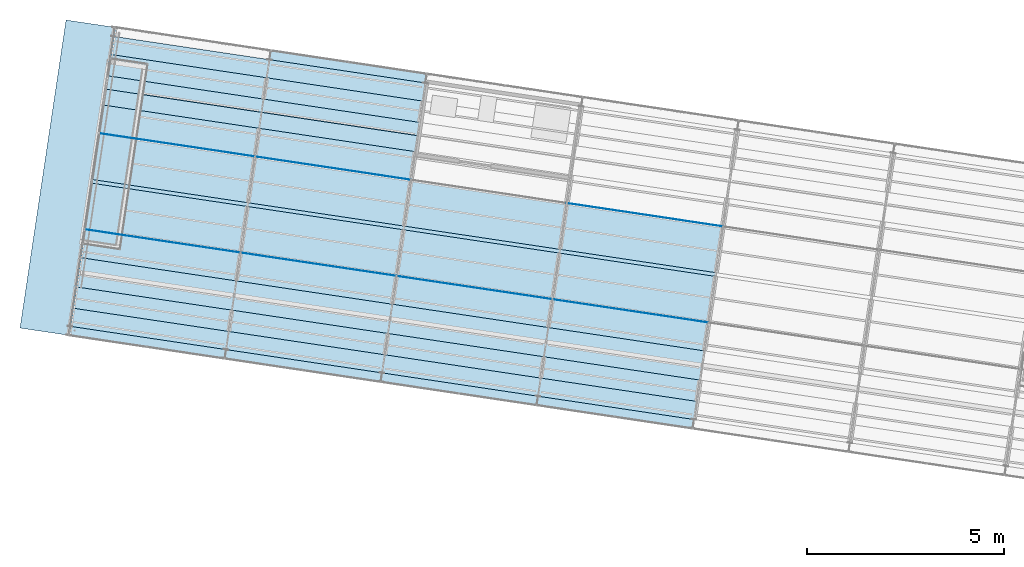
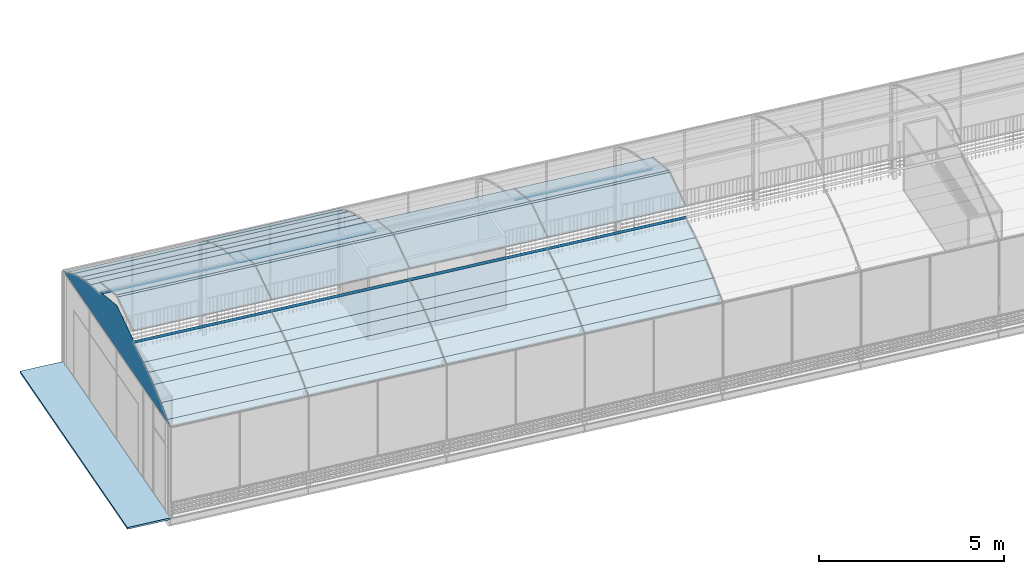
# One storey, part 25 of 34: 55 plates, 1 slab, 1 element without a shape of its own.
"""IFC4 building model written with IfcOpenShell, lengths in metres."""

from ifc_helpers import new_model, si_unit, direction, frame, origin_with_axes, place, context, subcontext, project, spatial, polyline, outline, extrude, material, element, aggregate, save


model = new_model("IFC4")

# Units and contexts
model_context = context("Model", 3, precision=1e-05, world=origin_with_axes(), true_north=direction((0.0, 1.0)))
body_context = subcontext(model_context, "Body", "Model", "MODEL_VIEW")
ifc_project = project(units=[si_unit("AREAUNIT", "SQUARE_METRE"), si_unit("VOLUMEUNIT", "CUBIC_METRE"), si_unit("LENGTHUNIT", "METRE")], contexts=[model_context])

# Site, building, storey
site_placement = place(None, origin_with_axes())
site = spatial("IfcSite", under=ifc_project, at=site_placement, Name="Lares · Rua das Mercês · artigo 4771")
building_placement = place(site_placement, frame((15.0, 9.7, 14.65), z_axis=(0.0, 0.0, 1.0), x_axis=(0.989015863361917, -0.147809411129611, 0.0)))
building = spatial("IfcBuilding", under=site, at=building_placement, Name="Casa Sobreposta")
storey_placement = place(building_placement, frame((0.0, 0.0, 3.24), z_axis=(0.0, 0.0, 1.0), x_axis=(1.0, 0.0, 0.0)))
storey = spatial("IfcBuildingStorey", under=building, at=storey_placement, Name="01 · Jardim de inverno", Elevation=17.89)

# Roof, plates
ifc_material_1 = material(Name="Vidro / Normalglas", Category="glass")
roof_placement = place(storey_placement, frame((0.0, 0.0, -3.24), z_axis=(0.0, 0.0, 1.0), x_axis=(1.0, 0.0, 0.0)))
roof = element("IfcRoof", 1, at=roof_placement, inside=storey, material=ifc_material_1, Name="Cobertura translúcida da estufa", PredefinedType="BARREL_ROOF")
plate_1_placement = place(roof_placement, frame((0.0, 0.0, 0.0), z_axis=(1.0, 0.0, 0.0), x_axis=(0.0, 1.0, 0.0)))
plate_1 = element("IfcPlate", 2, at=plate_1_placement, material=ifc_material_1, Name="Cobertura 1.1", PredefinedType="SHEET", context=body_context, shape_type="SweptSolid", body=[
    extrude(outline(polyline([(-1.5, 6.23430000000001), (-1.26765509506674, 6.32392631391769), (-1.26765509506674, 6.31592631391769), (-1.5, 6.22630000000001), (-1.5, 6.23430000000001)])), origin_with_axes(), (0.0, 0.0, 1.0), 4.0),
])
plate_2_placement = place(roof_placement, frame((4.0, 0.0, 0.0), z_axis=(1.0, 0.0, 0.0), x_axis=(0.0, 1.0, 0.0)))
plate_2 = element("IfcPlate", 3, at=plate_2_placement, material=ifc_material_1, Name="Cobertura 2.1", PredefinedType="SHEET", context=body_context, shape_type="SweptSolid", body=[
    extrude(outline(polyline([(-1.5, 6.23430000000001), (-1.26765509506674, 6.32392631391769), (-1.26765509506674, 6.31592631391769), (-1.5, 6.22630000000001), (-1.5, 6.23430000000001)])), origin_with_axes(), (0.0, 0.0, 1.0), 4.0),
])
plate_3_placement = place(roof_placement, frame((8.0, 0.0, 0.0), z_axis=(1.0, 0.0, 0.0), x_axis=(0.0, 1.0, 0.0)))
plate_3 = element("IfcPlate", 4, at=plate_3_placement, material=ifc_material_1, Name="Cobertura 3.1", PredefinedType="SHEET", context=body_context, shape_type="SweptSolid", body=[
    extrude(outline(polyline([(-1.5, 6.23430000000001), (-1.26765509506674, 6.32392631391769), (-1.26765509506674, 6.31592631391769), (-1.5, 6.22630000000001), (-1.5, 6.23430000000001)])), origin_with_axes(), (0.0, 0.0, 1.0), 4.0),
])
plate_4_placement = place(roof_placement, frame((12.0, 0.0, 0.0), z_axis=(1.0, 0.0, 0.0), x_axis=(0.0, 1.0, 0.0)))
plate_4 = element("IfcPlate", 5, at=plate_4_placement, material=ifc_material_1, Name="Cobertura 4.1", PredefinedType="SHEET", context=body_context, shape_type="SweptSolid", body=[
    extrude(outline(polyline([(-1.5, 6.23430000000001), (-1.26765509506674, 6.32392631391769), (-1.26765509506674, 6.31592631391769), (-1.5, 6.22630000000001), (-1.5, 6.23430000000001)])), origin_with_axes(), (0.0, 0.0, 1.0), 4.0),
])
plate_5_placement = place(roof_placement, frame((0.0, 0.0, 0.0), z_axis=(1.0, 0.0, 0.0), x_axis=(0.0, 1.0, 0.0)))
plate_5 = element("IfcPlate", 6, at=plate_5_placement, material=ifc_material_1, Name="Cobertura 1.2", PredefinedType="SHEET", context=body_context, shape_type="SweptSolid", body=[
    extrude(outline(polyline([(-1.26765509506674, 6.32392631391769), (-0.803062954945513, 6.57613537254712), (-0.803062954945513, 6.56813537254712), (-1.26765509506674, 6.31592631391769), (-1.26765509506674, 6.32392631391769)])), origin_with_axes(), (0.0, 0.0, 1.0), 4.0),
])
plate_6_placement = place(roof_placement, frame((4.0, 0.0, 0.0), z_axis=(1.0, 0.0, 0.0), x_axis=(0.0, 1.0, 0.0)))
plate_6 = element("IfcPlate", 7, at=plate_6_placement, material=ifc_material_1, Name="Cobertura 2.2", PredefinedType="SHEET", context=body_context, shape_type="SweptSolid", body=[
    extrude(outline(polyline([(-1.26765509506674, 6.32392631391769), (-0.803062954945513, 6.57613537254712), (-0.803062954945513, 6.56813537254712), (-1.26765509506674, 6.31592631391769), (-1.26765509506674, 6.32392631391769)])), origin_with_axes(), (0.0, 0.0, 1.0), 4.0),
])
plate_7_placement = place(roof_placement, frame((8.0, 0.0, 0.0), z_axis=(1.0, 0.0, 0.0), x_axis=(0.0, 1.0, 0.0)))
plate_7 = element("IfcPlate", 8, at=plate_7_placement, material=ifc_material_1, Name="Cobertura 3.2", PredefinedType="SHEET", context=body_context, shape_type="SweptSolid", body=[
    extrude(outline(polyline([(-1.26765509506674, 6.32392631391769), (-0.803062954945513, 6.57613537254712), (-0.803062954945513, 6.56813537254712), (-1.26765509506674, 6.31592631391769), (-1.26765509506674, 6.32392631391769)])), origin_with_axes(), (0.0, 0.0, 1.0), 4.0),
])
plate_8_placement = place(roof_placement, frame((12.0, 0.0, 0.0), z_axis=(1.0, 0.0, 0.0), x_axis=(0.0, 1.0, 0.0)))
plate_8 = element("IfcPlate", 9, at=plate_8_placement, material=ifc_material_1, Name="Cobertura 4.2", PredefinedType="SHEET", context=body_context, shape_type="SweptSolid", body=[
    extrude(outline(polyline([(-1.26765509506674, 6.32392631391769), (-0.803062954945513, 6.57613537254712), (-0.803062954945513, 6.56813537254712), (-1.26765509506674, 6.31592631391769), (-1.26765509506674, 6.32392631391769)])), origin_with_axes(), (0.0, 0.0, 1.0), 4.0),
])
plate_9_placement = place(roof_placement, frame((0.0, 0.0, 0.0), z_axis=(1.0, 0.0, 0.0), x_axis=(0.0, 1.0, 0.0)))
plate_9 = element("IfcPlate", 10, at=plate_9_placement, material=ifc_material_1, Name="Cobertura 1.3", PredefinedType="SHEET", context=body_context, shape_type="SweptSolid", body=[
    extrude(outline(polyline([(-0.803062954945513, 6.57613537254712), (-0.256488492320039, 6.81570306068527), (-0.256488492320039, 6.80770306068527), (-0.803062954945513, 6.56813537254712), (-0.803062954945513, 6.57613537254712)])), origin_with_axes(), (0.0, 0.0, 1.0), 4.0),
])
plate_10_placement = place(roof_placement, frame((4.0, 0.0, 0.0), z_axis=(1.0, 0.0, 0.0), x_axis=(0.0, 1.0, 0.0)))
plate_10 = element("IfcPlate", 11, at=plate_10_placement, material=ifc_material_1, Name="Cobertura 2.3", PredefinedType="SHEET", context=body_context, shape_type="SweptSolid", body=[
    extrude(outline(polyline([(-0.803062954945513, 6.57613537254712), (-0.256488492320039, 6.81570306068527), (-0.256488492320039, 6.80770306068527), (-0.803062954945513, 6.56813537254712), (-0.803062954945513, 6.57613537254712)])), origin_with_axes(), (0.0, 0.0, 1.0), 4.0),
])
plate_11_placement = place(roof_placement, frame((8.0, 0.0, 0.0), z_axis=(1.0, 0.0, 0.0), x_axis=(0.0, 1.0, 0.0)))
plate_11 = element("IfcPlate", 12, at=plate_11_placement, material=ifc_material_1, Name="Cobertura 3.3", PredefinedType="SHEET", context=body_context, shape_type="SweptSolid", body=[
    extrude(outline(polyline([(-0.803062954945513, 6.57613537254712), (-0.256488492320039, 6.81570306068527), (-0.256488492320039, 6.80770306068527), (-0.803062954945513, 6.56813537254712), (-0.803062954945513, 6.57613537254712)])), origin_with_axes(), (0.0, 0.0, 1.0), 4.0),
])
plate_12_placement = place(roof_placement, frame((12.0, 0.0, 0.0), z_axis=(1.0, 0.0, 0.0), x_axis=(0.0, 1.0, 0.0)))
plate_12 = element("IfcPlate", 13, at=plate_12_placement, material=ifc_material_1, Name="Cobertura 4.3", PredefinedType="SHEET", context=body_context, shape_type="SweptSolid", body=[
    extrude(outline(polyline([(-0.803062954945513, 6.57613537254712), (-0.256488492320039, 6.81570306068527), (-0.256488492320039, 6.80770306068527), (-0.803062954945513, 6.56813537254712), (-0.803062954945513, 6.57613537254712)])), origin_with_axes(), (0.0, 0.0, 1.0), 4.0),
])
plate_13_placement = place(roof_placement, frame((0.0, 0.0, 0.0), z_axis=(1.0, 0.0, 0.0), x_axis=(0.0, 1.0, 0.0)))
plate_13 = element("IfcPlate", 14, at=plate_13_placement, material=ifc_material_1, Name="Cobertura 1.4", PredefinedType="SHEET", context=body_context, shape_type="SweptSolid", body=[
    extrude(outline(polyline([(-0.256488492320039, 6.81570306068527), (0.142348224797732, 6.95669813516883), (0.142348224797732, 6.94869813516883), (-0.256488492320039, 6.80770306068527), (-0.256488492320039, 6.81570306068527)])), origin_with_axes(), (0.0, 0.0, 1.0), 4.0),
])
plate_14_placement = place(roof_placement, frame((4.0, 0.0, 0.0), z_axis=(1.0, 0.0, 0.0), x_axis=(0.0, 1.0, 0.0)))
plate_14 = element("IfcPlate", 15, at=plate_14_placement, material=ifc_material_1, Name="Cobertura 2.4", PredefinedType="SHEET", context=body_context, shape_type="SweptSolid", body=[
    extrude(outline(polyline([(-0.256488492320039, 6.81570306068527), (0.142348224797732, 6.95669813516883), (0.142348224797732, 6.94869813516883), (-0.256488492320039, 6.80770306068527), (-0.256488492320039, 6.81570306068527)])), origin_with_axes(), (0.0, 0.0, 1.0), 4.0),
])
plate_15_placement = place(roof_placement, frame((8.0, 0.0, 0.0), z_axis=(1.0, 0.0, 0.0), x_axis=(0.0, 1.0, 0.0)))
plate_15 = element("IfcPlate", 16, at=plate_15_placement, material=ifc_material_1, Name="Cobertura 3.4", PredefinedType="SHEET", context=body_context, shape_type="SweptSolid", body=[
    extrude(outline(polyline([(-0.256488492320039, 6.81570306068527), (0.142348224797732, 6.95669813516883), (0.142348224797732, 6.94869813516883), (-0.256488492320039, 6.80770306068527), (-0.256488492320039, 6.81570306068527)])), origin_with_axes(), (0.0, 0.0, 1.0), 4.0),
])
plate_16_placement = place(roof_placement, frame((12.0, 0.0, 0.0), z_axis=(1.0, 0.0, 0.0), x_axis=(0.0, 1.0, 0.0)))
plate_16 = element("IfcPlate", 17, at=plate_16_placement, material=ifc_material_1, Name="Cobertura 4.4", PredefinedType="SHEET", context=body_context, shape_type="SweptSolid", body=[
    extrude(outline(polyline([(-0.256488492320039, 6.81570306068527), (0.142348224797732, 6.95669813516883), (0.142348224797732, 6.94869813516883), (-0.256488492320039, 6.80770306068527), (-0.256488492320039, 6.81570306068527)])), origin_with_axes(), (0.0, 0.0, 1.0), 4.0),
])
plate_17_placement = place(roof_placement, frame((0.0, 0.0, 0.0), z_axis=(1.0, 0.0, 0.0), x_axis=(0.0, 1.0, 0.0)))
plate_17 = element("IfcPlate", 18, at=plate_17_placement, material=ifc_material_1, Name="Cobertura 1.5", PredefinedType="SHEET", context=body_context, shape_type="SweptSolid", body=[
    extrude(outline(polyline([(0.142348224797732, 6.95669813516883), (0.493171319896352, 7.05943931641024), (0.493171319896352, 7.05143931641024), (0.142348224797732, 6.94869813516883), (0.142348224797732, 6.95669813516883)])), origin_with_axes(), (0.0, 0.0, 1.0), 4.0),
])
plate_18_placement = place(roof_placement, frame((4.0, 0.0, 0.0), z_axis=(1.0, 0.0, 0.0), x_axis=(0.0, 1.0, 0.0)))
plate_18 = element("IfcPlate", 19, at=plate_18_placement, material=ifc_material_1, Name="Cobertura 2.5", PredefinedType="SHEET", context=body_context, shape_type="SweptSolid", body=[
    extrude(outline(polyline([(0.142348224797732, 6.95669813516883), (0.493171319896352, 7.05943931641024), (0.493171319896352, 7.05143931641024), (0.142348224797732, 6.94869813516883), (0.142348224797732, 6.95669813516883)])), origin_with_axes(), (0.0, 0.0, 1.0), 4.0),
])
plate_19_placement = place(roof_placement, frame((8.0, 0.0, 0.0), z_axis=(1.0, 0.0, 0.0), x_axis=(0.0, 1.0, 0.0)))
plate_19 = element("IfcPlate", 20, at=plate_19_placement, material=ifc_material_1, Name="Cobertura 3.5", PredefinedType="SHEET", context=body_context, shape_type="SweptSolid", body=[
    extrude(outline(polyline([(0.142348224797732, 6.95669813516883), (0.493171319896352, 7.05943931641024), (0.493171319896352, 7.05143931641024), (0.142348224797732, 6.94869813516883), (0.142348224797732, 6.95669813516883)])), origin_with_axes(), (0.0, 0.0, 1.0), 4.0),
])
plate_20_placement = place(roof_placement, frame((12.0, 0.0, 0.0), z_axis=(1.0, 0.0, 0.0), x_axis=(0.0, 1.0, 0.0)))
plate_20 = element("IfcPlate", 21, at=plate_20_placement, material=ifc_material_1, Name="Cobertura 4.5", PredefinedType="SHEET", context=body_context, shape_type="SweptSolid", body=[
    extrude(outline(polyline([(0.142348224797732, 6.95669813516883), (0.493171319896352, 7.05943931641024), (0.493171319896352, 7.05143931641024), (0.142348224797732, 6.94869813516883), (0.142348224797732, 6.95669813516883)])), origin_with_axes(), (0.0, 0.0, 1.0), 4.0),
])
plate_21_placement = place(roof_placement, frame((0.0, 0.0, 0.0), z_axis=(1.0, 0.0, 0.0), x_axis=(0.0, 1.0, 0.0)))
plate_21 = element("IfcPlate", 22, at=plate_21_placement, material=ifc_material_1, Name="Cobertura 1.6", PredefinedType="SHEET", context=body_context, shape_type="SweptSolid", body=[
    extrude(outline(polyline([(0.493171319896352, 7.05943931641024), (1.21440957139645, 7.21329402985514), (1.21440957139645, 7.20529402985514), (0.493171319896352, 7.05143931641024), (0.493171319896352, 7.05943931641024)])), origin_with_axes(), (0.0, 0.0, 1.0), 4.0),
])
plate_22_placement = place(roof_placement, frame((4.0, 0.0, 0.0), z_axis=(1.0, 0.0, 0.0), x_axis=(0.0, 1.0, 0.0)))
plate_22 = element("IfcPlate", 23, at=plate_22_placement, material=ifc_material_1, Name="Cobertura 2.6", PredefinedType="SHEET", context=body_context, shape_type="SweptSolid", body=[
    extrude(outline(polyline([(0.493171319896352, 7.05943931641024), (1.21440957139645, 7.21329402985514), (1.21440957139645, 7.20529402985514), (0.493171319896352, 7.05143931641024), (0.493171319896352, 7.05943931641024)])), origin_with_axes(), (0.0, 0.0, 1.0), 4.0),
])
plate_23_placement = place(roof_placement, frame((8.0, 0.0, 0.0), z_axis=(1.0, 0.0, 0.0), x_axis=(0.0, 1.0, 0.0)))
plate_23 = element("IfcPlate", 24, at=plate_23_placement, material=ifc_material_1, Name="Cobertura 3.6", PredefinedType="SHEET", context=body_context, shape_type="SweptSolid", body=[
    extrude(outline(polyline([(0.493171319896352, 7.05943931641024), (1.21440957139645, 7.21329402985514), (1.21440957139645, 7.20529402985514), (0.493171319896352, 7.05143931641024), (0.493171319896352, 7.05943931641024)])), origin_with_axes(), (0.0, 0.0, 1.0), 4.0),
])
plate_24_placement = place(roof_placement, frame((12.0, 0.0, 0.0), z_axis=(1.0, 0.0, 0.0), x_axis=(0.0, 1.0, 0.0)))
plate_24 = element("IfcPlate", 25, at=plate_24_placement, material=ifc_material_1, Name="Cobertura 4.6", PredefinedType="SHEET", context=body_context, shape_type="SweptSolid", body=[
    extrude(outline(polyline([(0.493171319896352, 7.05943931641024), (1.21440957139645, 7.21329402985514), (1.21440957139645, 7.20529402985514), (0.493171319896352, 7.05143931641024), (0.493171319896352, 7.05943931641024)])), origin_with_axes(), (0.0, 0.0, 1.0), 4.0),
])
plate_25_placement = place(roof_placement, frame((0.0, 0.0, 0.0), z_axis=(1.0, 0.0, 0.0), x_axis=(0.0, 1.0, 0.0)))
plate_25 = element("IfcPlate", 26, at=plate_25_placement, material=ifc_material_1, Name="Cobertura 1.7", PredefinedType="SHEET", context=body_context, shape_type="SweptSolid", body=[
    extrude(outline(polyline([(1.21440957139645, 7.21329402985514), (1.22042020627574, 7.30067689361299), (1.22042020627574, 7.29267689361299), (1.21440957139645, 7.20529402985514), (1.21440957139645, 7.21329402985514)])), origin_with_axes(), (0.0, 0.0, 1.0), 4.0),
])
plate_26_placement = place(roof_placement, frame((4.0, 0.0, 0.0), z_axis=(1.0, 0.0, 0.0), x_axis=(0.0, 1.0, 0.0)))
plate_26 = element("IfcPlate", 27, at=plate_26_placement, material=ifc_material_1, Name="Cobertura 2.7", PredefinedType="SHEET", context=body_context, shape_type="SweptSolid", body=[
    extrude(outline(polyline([(1.21440957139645, 7.21329402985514), (1.22042020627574, 7.30067689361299), (1.22042020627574, 7.29267689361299), (1.21440957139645, 7.20529402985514), (1.21440957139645, 7.21329402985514)])), origin_with_axes(), (0.0, 0.0, 1.0), 4.0),
])
plate_27_placement = place(roof_placement, frame((8.0, 0.0, 0.0), z_axis=(1.0, 0.0, 0.0), x_axis=(0.0, 1.0, 0.0)))
plate_27 = element("IfcPlate", 28, at=plate_27_placement, material=ifc_material_1, Name="Cobertura 3.7", PredefinedType="SHEET", context=body_context, shape_type="SweptSolid", body=[
    extrude(outline(polyline([(1.21440957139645, 7.21329402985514), (1.22042020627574, 7.30067689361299), (1.22042020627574, 7.29267689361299), (1.21440957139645, 7.20529402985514), (1.21440957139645, 7.21329402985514)])), origin_with_axes(), (0.0, 0.0, 1.0), 4.0),
])
plate_28_placement = place(roof_placement, frame((12.0, 0.0, 0.0), z_axis=(1.0, 0.0, 0.0), x_axis=(0.0, 1.0, 0.0)))
plate_28 = element("IfcPlate", 29, at=plate_28_placement, material=ifc_material_1, Name="Cobertura 4.7", PredefinedType="SHEET", context=body_context, shape_type="SweptSolid", body=[
    extrude(outline(polyline([(1.21440957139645, 7.21329402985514), (1.22042020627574, 7.30067689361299), (1.22042020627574, 7.29267689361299), (1.21440957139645, 7.20529402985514), (1.21440957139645, 7.21329402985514)])), origin_with_axes(), (0.0, 0.0, 1.0), 4.0),
])
plate_29_placement = place(roof_placement, frame((0.0, 0.0, 0.0), z_axis=(1.0, 0.0, 0.0), x_axis=(0.0, 1.0, 0.0)))
plate_29 = element("IfcPlate", 30, at=plate_29_placement, material=ifc_material_1, Name="Cobertura 1.8", PredefinedType="SHEET", context=body_context, shape_type="SweptSolid", body=[
    extrude(outline(polyline([(1.22042020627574, 7.62067689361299), (2.40274082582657, 7.96518238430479), (2.40274082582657, 7.95718238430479), (1.22042020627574, 7.61267689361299), (1.22042020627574, 7.62067689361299)])), origin_with_axes(), (0.0, 0.0, 1.0), 4.0),
])
plate_30_placement = place(roof_placement, frame((4.0, 0.0, 0.0), z_axis=(1.0, 0.0, 0.0), x_axis=(0.0, 1.0, 0.0)))
plate_30 = element("IfcPlate", 31, at=plate_30_placement, material=ifc_material_1, Name="Cobertura 2.8", PredefinedType="SHEET", context=body_context, shape_type="SweptSolid", body=[
    extrude(outline(polyline([(1.22042020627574, 7.62067689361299), (2.40274082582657, 7.96518238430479), (2.40274082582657, 7.95718238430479), (1.22042020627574, 7.61267689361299), (1.22042020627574, 7.62067689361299)])), origin_with_axes(), (0.0, 0.0, 1.0), 4.0),
])
plate_31_placement = place(roof_placement, frame((8.0, 0.0, 0.0), z_axis=(1.0, 0.0, 0.0), x_axis=(0.0, 1.0, 0.0)))
plate_31 = element("IfcPlate", 32, at=plate_31_placement, material=ifc_material_1, Name="Cobertura 3.8", PredefinedType="SHEET", context=body_context, shape_type="SweptSolid", body=[
    extrude(outline(polyline([(1.22042020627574, 7.62067689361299), (2.40274082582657, 7.96518238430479), (2.40274082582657, 7.95718238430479), (1.22042020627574, 7.61267689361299), (1.22042020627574, 7.62067689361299)])), origin_with_axes(), (0.0, 0.0, 1.0), 4.0),
])
plate_32_placement = place(roof_placement, frame((12.0, 0.0, 0.0), z_axis=(1.0, 0.0, 0.0), x_axis=(0.0, 1.0, 0.0)))
plate_32 = element("IfcPlate", 33, at=plate_32_placement, material=ifc_material_1, Name="Cobertura 4.8", PredefinedType="SHEET", context=body_context, shape_type="SweptSolid", body=[
    extrude(outline(polyline([(1.22042020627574, 7.62067689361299), (2.40274082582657, 7.96518238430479), (2.40274082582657, 7.95718238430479), (1.22042020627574, 7.61267689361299), (1.22042020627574, 7.62067689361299)])), origin_with_axes(), (0.0, 0.0, 1.0), 4.0),
])
plate_33_placement = place(roof_placement, frame((0.0, 0.0, 0.0), z_axis=(1.0, 0.0, 0.0), x_axis=(0.0, 1.0, 0.0)))
plate_33 = element("IfcPlate", 34, at=plate_33_placement, material=ifc_material_1, Name="Cobertura 1.9", PredefinedType="SHEET", context=body_context, shape_type="SweptSolid", body=[
    extrude(outline(polyline([(2.40274082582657, 7.96518238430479), (2.49770027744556, 7.96518238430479), (2.49770027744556, 7.95718238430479), (2.40274082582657, 7.95718238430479), (2.40274082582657, 7.96518238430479)])), origin_with_axes(), (0.0, 0.0, 1.0), 4.0),
])
plate_34_placement = place(roof_placement, frame((4.0, 0.0, 0.0), z_axis=(1.0, 0.0, 0.0), x_axis=(0.0, 1.0, 0.0)))
plate_34 = element("IfcPlate", 35, at=plate_34_placement, material=ifc_material_1, Name="Cobertura 2.9", PredefinedType="SHEET", context=body_context, shape_type="SweptSolid", body=[
    extrude(outline(polyline([(2.40274082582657, 7.96518238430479), (2.49770027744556, 7.96518238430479), (2.49770027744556, 7.95718238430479), (2.40274082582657, 7.95718238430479), (2.40274082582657, 7.96518238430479)])), origin_with_axes(), (0.0, 0.0, 1.0), 4.0),
])
plate_35_placement = place(roof_placement, frame((8.0, 0.0, 0.0), z_axis=(1.0, 0.0, 0.0), x_axis=(0.0, 1.0, 0.0)))
plate_35 = element("IfcPlate", 36, at=plate_35_placement, material=ifc_material_1, Name="Cobertura 3.9", PredefinedType="SHEET", context=body_context, shape_type="SweptSolid", body=[
    extrude(outline(polyline([(2.40274082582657, 7.96518238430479), (2.49770027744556, 7.96518238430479), (2.49770027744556, 7.95718238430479), (2.40274082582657, 7.95718238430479), (2.40274082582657, 7.96518238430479)])), origin_with_axes(), (0.0, 0.0, 1.0), 4.0),
])
plate_36_placement = place(roof_placement, frame((12.0, 0.0, 0.0), z_axis=(1.0, 0.0, 0.0), x_axis=(0.0, 1.0, 0.0)))
plate_36 = element("IfcPlate", 37, at=plate_36_placement, material=ifc_material_1, Name="Cobertura 4.9", PredefinedType="SHEET", context=body_context, shape_type="SweptSolid", body=[
    extrude(outline(polyline([(2.40274082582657, 7.96518238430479), (2.49770027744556, 7.96518238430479), (2.49770027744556, 7.95718238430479), (2.40274082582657, 7.95718238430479), (2.40274082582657, 7.96518238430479)])), origin_with_axes(), (0.0, 0.0, 1.0), 4.0),
])
plate_37_placement = place(roof_placement, frame((0.0, 0.0, 0.0), z_axis=(1.0, 0.0, 0.0), x_axis=(0.0, 1.0, 0.0)))
plate_37 = element("IfcPlate", 38, at=plate_37_placement, material=ifc_material_1, Name="Cobertura 1.10", PredefinedType="SHEET", context=body_context, shape_type="SweptSolid", body=[
    extrude(outline(polyline([(2.49770027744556, 7.96518238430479), (3.68002089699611, 7.62067689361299), (3.68002089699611, 7.61267689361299), (2.49770027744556, 7.95718238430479), (2.49770027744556, 7.96518238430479)])), origin_with_axes(), (0.0, 0.0, 1.0), 4.0),
])
plate_38_placement = place(roof_placement, frame((4.0, 0.0, 0.0), z_axis=(1.0, 0.0, 0.0), x_axis=(0.0, 1.0, 0.0)))
plate_38 = element("IfcPlate", 39, at=plate_38_placement, material=ifc_material_1, Name="Cobertura 2.10", PredefinedType="SHEET", context=body_context, shape_type="SweptSolid", body=[
    extrude(outline(polyline([(2.49770027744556, 7.96518238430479), (3.68002089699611, 7.62067689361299), (3.68002089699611, 7.61267689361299), (2.49770027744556, 7.95718238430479), (2.49770027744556, 7.96518238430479)])), origin_with_axes(), (0.0, 0.0, 1.0), 4.0),
])
plate_39_placement = place(roof_placement, frame((8.0, 0.0, 0.0), z_axis=(1.0, 0.0, 0.0), x_axis=(0.0, 1.0, 0.0)))
plate_39 = element("IfcPlate", 40, at=plate_39_placement, material=ifc_material_1, Name="Cobertura 3.10", PredefinedType="SHEET", context=body_context, shape_type="SweptSolid", body=[
    extrude(outline(polyline([(2.49770027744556, 7.96518238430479), (3.68002089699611, 7.62067689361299), (3.68002089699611, 7.61267689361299), (2.49770027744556, 7.95718238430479), (2.49770027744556, 7.96518238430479)])), origin_with_axes(), (0.0, 0.0, 1.0), 4.0),
])
plate_40_placement = place(roof_placement, frame((12.0, 0.0, 0.0), z_axis=(1.0, 0.0, 0.0), x_axis=(0.0, 1.0, 0.0)))
plate_40 = element("IfcPlate", 41, at=plate_40_placement, material=ifc_material_1, Name="Cobertura 4.10", PredefinedType="SHEET", context=body_context, shape_type="SweptSolid", body=[
    extrude(outline(polyline([(2.49770027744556, 7.96518238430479), (3.68002089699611, 7.62067689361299), (3.68002089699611, 7.61267689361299), (2.49770027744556, 7.95718238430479), (2.49770027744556, 7.96518238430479)])), origin_with_axes(), (0.0, 0.0, 1.0), 4.0),
])
plate_41_placement = place(roof_placement, frame((0.0, 0.0, 0.0), z_axis=(1.0, 0.0, 0.0), x_axis=(0.0, 1.0, 0.0)))
plate_41 = element("IfcPlate", 42, at=plate_41_placement, material=ifc_material_1, Name="Cobertura 1.11", PredefinedType="SHEET", context=body_context, shape_type="SweptSolid", body=[
    extrude(outline(polyline([(3.68002089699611, 7.30067689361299), (3.68573096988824, 7.21327919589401), (3.68573096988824, 7.20527919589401), (3.68002089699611, 7.29267689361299), (3.68002089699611, 7.30067689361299)])), origin_with_axes(), (0.0, 0.0, 1.0), 4.0),
])
plate_42_placement = place(roof_placement, frame((4.0, 0.0, 0.0), z_axis=(1.0, 0.0, 0.0), x_axis=(0.0, 1.0, 0.0)))
plate_42 = element("IfcPlate", 43, at=plate_42_placement, material=ifc_material_1, Name="Cobertura 2.11", PredefinedType="SHEET", context=body_context, shape_type="SweptSolid", body=[
    extrude(outline(polyline([(3.68002089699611, 7.30067689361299), (3.68573096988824, 7.21327919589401), (3.68573096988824, 7.20527919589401), (3.68002089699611, 7.29267689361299), (3.68002089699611, 7.30067689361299)])), origin_with_axes(), (0.0, 0.0, 1.0), 4.0),
])
plate_43_placement = place(roof_placement, frame((12.0, 0.0, 0.0), z_axis=(1.0, 0.0, 0.0), x_axis=(0.0, 1.0, 0.0)))
plate_43 = element("IfcPlate", 44, at=plate_43_placement, material=ifc_material_1, Name="Cobertura 4.11", PredefinedType="SHEET", context=body_context, shape_type="SweptSolid", body=[
    extrude(outline(polyline([(3.68002089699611, 7.30067689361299), (3.68573096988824, 7.21327919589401), (3.68573096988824, 7.20527919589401), (3.68002089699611, 7.29267689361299), (3.68002089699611, 7.30067689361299)])), origin_with_axes(), (0.0, 0.0, 1.0), 4.0),
])
plate_44_placement = place(roof_placement, frame((0.0, 0.0, 0.0), z_axis=(1.0, 0.0, 0.0), x_axis=(0.0, 1.0, 0.0)))
plate_44 = element("IfcPlate", 45, at=plate_44_placement, material=ifc_material_1, Name="Cobertura 1.12", PredefinedType="SHEET", context=body_context, shape_type="SweptSolid", body=[
    extrude(outline(polyline([(3.68573096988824, 7.21327919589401), (4.40690649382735, 7.05944154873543), (4.40690649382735, 7.05144154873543), (3.68573096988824, 7.20527919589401), (3.68573096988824, 7.21327919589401)])), origin_with_axes(), (0.0, 0.0, 1.0), 4.0),
])
plate_45_placement = place(roof_placement, frame((4.0, 0.0, 0.0), z_axis=(1.0, 0.0, 0.0), x_axis=(0.0, 1.0, 0.0)))
plate_45 = element("IfcPlate", 46, at=plate_45_placement, material=ifc_material_1, Name="Cobertura 2.12", PredefinedType="SHEET", context=body_context, shape_type="SweptSolid", body=[
    extrude(outline(polyline([(3.68573096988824, 7.21327919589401), (4.40690649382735, 7.05944154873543), (4.40690649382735, 7.05144154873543), (3.68573096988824, 7.20527919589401), (3.68573096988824, 7.21327919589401)])), origin_with_axes(), (0.0, 0.0, 1.0), 4.0),
])
plate_46_placement = place(roof_placement, frame((0.0, 0.0, 0.0), z_axis=(1.0, 0.0, 0.0), x_axis=(0.0, 1.0, 0.0)))
plate_46 = element("IfcPlate", 47, at=plate_46_placement, material=ifc_material_1, Name="Cobertura 1.13", PredefinedType="SHEET", context=body_context, shape_type="SweptSolid", body=[
    extrude(outline(polyline([(4.40690649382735, 7.05944154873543), (4.81540166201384, 6.93795392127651), (4.81540166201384, 6.92995392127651), (4.40690649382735, 7.05144154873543), (4.40690649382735, 7.05944154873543)])), origin_with_axes(), (0.0, 0.0, 1.0), 4.0),
])
plate_47_placement = place(roof_placement, frame((4.0, 0.0, 0.0), z_axis=(1.0, 0.0, 0.0), x_axis=(0.0, 1.0, 0.0)))
plate_47 = element("IfcPlate", 48, at=plate_47_placement, material=ifc_material_1, Name="Cobertura 2.13", PredefinedType="SHEET", context=body_context, shape_type="SweptSolid", body=[
    extrude(outline(polyline([(4.40690649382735, 7.05944154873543), (4.81540166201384, 6.93795392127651), (4.81540166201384, 6.92995392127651), (4.40690649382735, 7.05144154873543), (4.40690649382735, 7.05944154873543)])), origin_with_axes(), (0.0, 0.0, 1.0), 4.0),
])
plate_48_placement = place(roof_placement, frame((0.0, 0.0, 0.0), z_axis=(1.0, 0.0, 0.0), x_axis=(0.0, 1.0, 0.0)))
plate_48 = element("IfcPlate", 49, at=plate_48_placement, material=ifc_material_1, Name="Cobertura 1.14", PredefinedType="SHEET", context=body_context, shape_type="SweptSolid", body=[
    extrude(outline(polyline([(4.81540166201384, 6.93795392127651), (5.15650506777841, 6.8157371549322), (5.15650506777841, 6.8077371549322), (4.81540166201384, 6.92995392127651), (4.81540166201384, 6.93795392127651)])), origin_with_axes(), (0.0, 0.0, 1.0), 4.0),
])
plate_49_placement = place(roof_placement, frame((4.0, 0.0, 0.0), z_axis=(1.0, 0.0, 0.0), x_axis=(0.0, 1.0, 0.0)))
plate_49 = element("IfcPlate", 50, at=plate_49_placement, material=ifc_material_1, Name="Cobertura 2.14", PredefinedType="SHEET", context=body_context, shape_type="SweptSolid", body=[
    extrude(outline(polyline([(4.81540166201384, 6.93795392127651), (5.15650506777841, 6.8157371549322), (5.15650506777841, 6.8077371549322), (4.81540166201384, 6.92995392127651), (4.81540166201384, 6.93795392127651)])), origin_with_axes(), (0.0, 0.0, 1.0), 4.0),
])
plate_50_placement = place(roof_placement, frame((0.0, 0.0, 0.0), z_axis=(1.0, 0.0, 0.0), x_axis=(0.0, 1.0, 0.0)))
plate_50 = element("IfcPlate", 51, at=plate_50_placement, material=ifc_material_1, Name="Cobertura 1.15", PredefinedType="SHEET", context=body_context, shape_type="SweptSolid", body=[
    extrude(outline(polyline([(5.15650506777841, 6.8157371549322), (5.70303916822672, 6.57620268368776), (5.70303916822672, 6.56820268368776), (5.15650506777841, 6.8077371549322), (5.15650506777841, 6.8157371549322)])), origin_with_axes(), (0.0, 0.0, 1.0), 4.0),
])
plate_51_placement = place(roof_placement, frame((4.0, 0.0, 0.0), z_axis=(1.0, 0.0, 0.0), x_axis=(0.0, 1.0, 0.0)))
plate_51 = element("IfcPlate", 52, at=plate_51_placement, material=ifc_material_1, Name="Cobertura 2.15", PredefinedType="SHEET", context=body_context, shape_type="SweptSolid", body=[
    extrude(outline(polyline([(5.15650506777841, 6.8157371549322), (5.70303916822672, 6.57620268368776), (5.70303916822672, 6.56820268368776), (5.15650506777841, 6.8077371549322), (5.15650506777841, 6.8157371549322)])), origin_with_axes(), (0.0, 0.0, 1.0), 4.0),
])
plate_52_placement = place(roof_placement, frame((0.0, 0.0, 0.0), z_axis=(1.0, 0.0, 0.0), x_axis=(0.0, 1.0, 0.0)))
plate_52 = element("IfcPlate", 53, at=plate_52_placement, material=ifc_material_1, Name="Cobertura 1.16", PredefinedType="SHEET", context=body_context, shape_type="SweptSolid", body=[
    extrude(outline(polyline([(5.70303916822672, 6.57620268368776), (6.16760124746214, 6.3240293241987), (6.16760124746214, 6.3160293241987), (5.70303916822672, 6.56820268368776), (5.70303916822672, 6.57620268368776)])), origin_with_axes(), (0.0, 0.0, 1.0), 4.0),
])
plate_53_placement = place(roof_placement, frame((4.0, 0.0, 0.0), z_axis=(1.0, 0.0, 0.0), x_axis=(0.0, 1.0, 0.0)))
plate_53 = element("IfcPlate", 54, at=plate_53_placement, material=ifc_material_1, Name="Cobertura 2.16", PredefinedType="SHEET", context=body_context, shape_type="SweptSolid", body=[
    extrude(outline(polyline([(5.70303916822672, 6.57620268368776), (6.16760124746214, 6.3240293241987), (6.16760124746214, 6.3160293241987), (5.70303916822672, 6.56820268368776), (5.70303916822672, 6.57620268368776)])), origin_with_axes(), (0.0, 0.0, 1.0), 4.0),
])
plate_54_placement = place(roof_placement, frame((4.0, 0.0, 0.0), z_axis=(1.0, 0.0, 0.0), x_axis=(0.0, 1.0, 0.0)))
plate_54 = element("IfcPlate", 55, at=plate_54_placement, material=ifc_material_1, Name="Cobertura 2.17", PredefinedType="SHEET", context=body_context, shape_type="SweptSolid", body=[
    extrude(outline(polyline([(6.16760124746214, 6.3240293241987), (6.39999999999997, 6.23430000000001), (6.39999999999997, 6.22630000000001), (6.16760124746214, 6.3160293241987), (6.16760124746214, 6.3240293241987)])), origin_with_axes(), (0.0, 0.0, 1.0), 4.0),
])
plate_55_placement = place(roof_placement, frame((0.0, 0.0, 0.0), z_axis=(1.0, 0.0, 0.0), x_axis=(0.0, 1.0, 0.0)))
plate_55 = element("IfcPlate", 56, at=plate_55_placement, material=ifc_material_1, Name="Empena da estufa", context=body_context, shape_type="SweptSolid", body=[
    extrude(outline(polyline([(-1.5, 6.22), (-1.5, 6.23430000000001), (-1.26765509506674, 6.32392631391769), (-1.21743691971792, 6.35359791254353), (-1.16685614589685, 6.38286403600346), (-1.11591778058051, 6.41172178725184), (-1.06462686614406, 6.4401683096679), (-1.01298847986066, 6.46820078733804), (-0.961007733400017, 6.49581644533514), (-0.908689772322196, 6.52301254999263), (-0.856039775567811, 6.54978640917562), (-0.803062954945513, 6.57613537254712), (-0.749764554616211, 6.6020568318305), (-0.696149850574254, 6.62754822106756), (-0.642224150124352, 6.6526070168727), (-0.587992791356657, 6.67723073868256), (-0.533461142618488, 6.70141694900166), (-0.478634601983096, 6.72516325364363), (-0.423518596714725, 6.74846730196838), (-0.368118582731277, 6.77132678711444), (-0.312440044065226, 6.79373944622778), (-0.256488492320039, 6.81570306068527), (-0.200269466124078, 6.83721545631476), (-0.143788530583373, 6.85827450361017), (-0.0870512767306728, 6.87887811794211), (-0.0300633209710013, 6.89902425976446), (0.0271696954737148, 6.9187109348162), (0.0846421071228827, 6.93793619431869), (0.142348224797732, 6.95669813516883), (0.200282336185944, 6.97499490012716), (0.258438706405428, 6.99282467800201), (0.316811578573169, 7.01018570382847), (0.375395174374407, 7.02707625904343), (0.434183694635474, 7.04349467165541), (0.493171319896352, 7.05943931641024), (0.552352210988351, 7.07490861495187), (0.611720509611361, 7.08990103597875), (0.671270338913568, 7.1044150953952), (0.730995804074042, 7.11844935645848), (0.790890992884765, 7.13200242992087), (0.85094997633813, 7.14507297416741), (0.911166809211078, 7.15765969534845), (0.971535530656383, 7.16976134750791), (1.03205016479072, 7.1813767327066), (1.09270472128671, 7.19250470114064), (1.15349319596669, 7.20314415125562), (1.21440957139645, 7.21329402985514), (1.22042020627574, 7.30067689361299), (2.40274082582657, 7.64518238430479), (2.49770027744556, 7.64518238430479), (3.68002089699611, 7.30067689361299), (3.68573096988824, 7.21327919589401), (3.74664195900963, 7.20313026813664), (3.80742507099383, 7.19249185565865), (3.86807429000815, 7.18136501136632), (3.92858361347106, 7.16975083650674), (3.9889470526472, 7.15765048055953), (4.04915863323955, 7.14506514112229), (4.10921239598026, 7.13199606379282), (4.1691023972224, 7.11844454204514), (4.22882270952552, 7.10441191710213), (4.28836742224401, 7.08989957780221), (4.34773064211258, 7.07490896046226), (4.40690649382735, 7.05944154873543), (4.46588912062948, 7.04349887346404), (4.52467268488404, 7.02708251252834), (4.58325136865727, 7.01019409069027), (4.64161937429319, 6.99283527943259), (4.69977092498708, 6.97500779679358), (4.75770026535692, 6.95671340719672), (4.81540166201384, 6.93795392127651), (4.87286940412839, 6.91873119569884), (4.93009780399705, 6.89904713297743), (4.98708119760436, 6.87890368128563), (5.04381394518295, 6.85830283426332), (5.10029043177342, 6.83724663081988), (5.15650506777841, 6.8157371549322), (5.21245228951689, 6.79377653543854), (5.26812655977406, 6.77136694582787), (5.32352236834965, 6.74851060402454), (5.37863423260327, 6.72520977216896), (5.43345669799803, 6.70146675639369), (5.48798433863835, 6.67728390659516), (5.54221175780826, 6.65266361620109), (5.59613358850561, 6.62760832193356), (5.64974449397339, 6.60212050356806), (5.70303916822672, 6.57620268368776), (5.75601233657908, 6.54985742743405), (5.80865875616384, 6.52308734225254), (5.86097321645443, 6.49589507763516), (5.9129505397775, 6.46828332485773), (5.9645855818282, 6.44025481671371), (6.01587323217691, 6.41181232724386), (6.0668084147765, 6.38295867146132), (6.11738608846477, 6.35369670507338), (6.16760124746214, 6.3240293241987), (6.39999999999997, 6.23430000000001), (6.39999999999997, 6.22), (-1.5, 6.22)])), origin_with_axes(), (0.0, 0.0, 1.0), 0.008),
])
aggregate(roof, [plate_1, plate_2, plate_3, plate_4, plate_5, plate_6, plate_7, plate_8, plate_9, plate_10, plate_11, plate_12, plate_13, plate_14, plate_15, plate_16, plate_17, plate_18, plate_19, plate_20, plate_21, plate_22, plate_23, plate_24, plate_25, plate_26, plate_27, plate_28, plate_29, plate_30, plate_31, plate_32, plate_33, plate_34, plate_35, plate_36, plate_37, plate_38, plate_39, plate_40, plate_41, plate_42, plate_43, plate_44, plate_45, plate_46, plate_47, plate_48, plate_49, plate_50, plate_51, plate_52, plate_53, plate_54, plate_55])

# Slab
ifc_material_2 = material(Name="Aço galvanizado / Stahl verzinkt", Category="steel")
slab_placement = place(storey_placement, frame((0.0, 0.0, -0.0600000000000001), z_axis=(0.0, 0.0, 1.0), x_axis=(1.0, 0.0, 0.0)))
element("IfcSlab", 57, at=slab_placement, inside=storey, material=ifc_material_2, Name="Varanda · faixa poente 1,20 m úteis", PredefinedType="FLOOR", context=body_context, shape_type="SweptSolid", body=[
    extrude(outline(polyline([(0.0, -1.5), (0.0, 6.4), (-1.25, 6.4), (-1.25, -1.5), (0.0, -1.5)])), origin_with_axes(), (0.0, 0.0, 1.0), 0.06),
])

save(model, "model.ifc")
